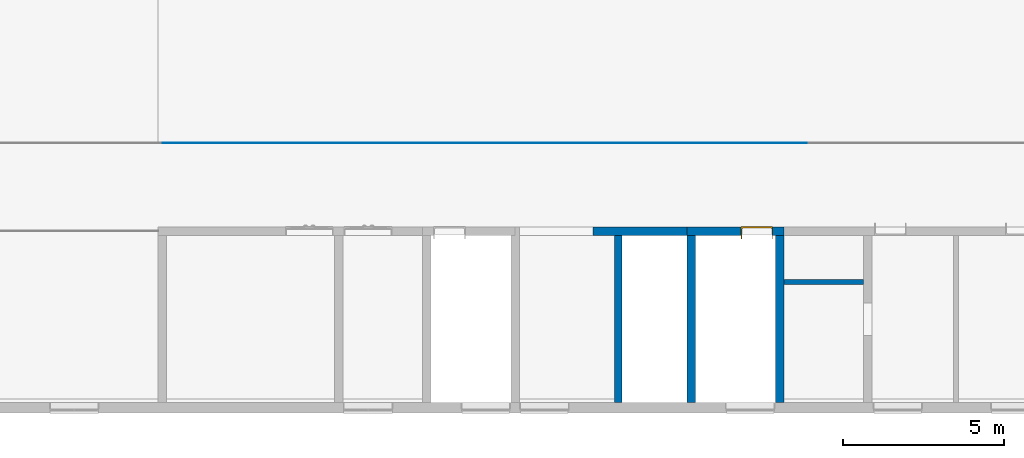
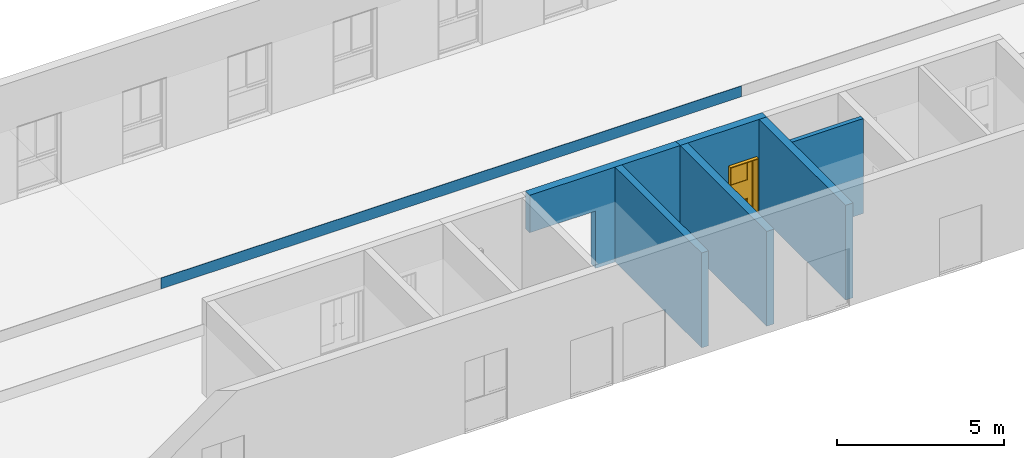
# One storey, part 6 of 11: 7 walls, 1 door, 2 openings.
"""IFC4X3 building model written with IfcOpenShell, lengths in millimetres."""

from ifc_helpers import new_model, entity, si_unit, converted_unit, derived_unit, direction, frame, frame_2d, origin, place, context, subcontext, project, spatial, rectangle, extrude, faceted_brep, source, transform, mapped, material, layer, layer_set, constituent, constituent_set, type_object, type_shapes, element, fill, save


model = new_model("IFC4X3")

# Units and contexts
model_context = context("Model", 3, precision=0.01, world=origin(), true_north=direction((6.12303176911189e-17, 1.0)))
body_context = subcontext(model_context, "Body", "Model", "MODEL_VIEW")
ifc_project = project(units=[si_unit("LENGTHUNIT", "METRE", prefix="MILLI"), si_unit("AREAUNIT", "SQUARE_METRE"), si_unit("VOLUMEUNIT", "CUBIC_METRE"), converted_unit("PLANEANGLEUNIT", "DEGREE", entity("IfcPlaneAngleMeasure", 0.0174532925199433), si_unit("PLANEANGLEUNIT", "RADIAN"), dimensions=[0, 0, 0, 0, 0, 0, 0]), si_unit("MASSUNIT", "GRAM", prefix="KILO"), derived_unit("MASSDENSITYUNIT", [(si_unit("MASSUNIT", "GRAM", prefix="KILO"), 1), (si_unit("LENGTHUNIT", "METRE"), -3)]), derived_unit("IONCONCENTRATIONUNIT", [(si_unit("MASSUNIT", "GRAM", prefix="KILO"), 1), (si_unit("LENGTHUNIT", "METRE"), -3)]), derived_unit("MOMENTOFINERTIAUNIT", [(si_unit("LENGTHUNIT", "METRE"), 4)]), si_unit("TIMEUNIT", "SECOND"), si_unit("FREQUENCYUNIT", "HERTZ"), si_unit("THERMODYNAMICTEMPERATUREUNIT", "DEGREE_CELSIUS"), derived_unit("THERMALTRANSMITTANCEUNIT", [(si_unit("MASSUNIT", "GRAM", prefix="KILO"), 1), (si_unit("THERMODYNAMICTEMPERATUREUNIT", "KELVIN"), -1), (si_unit("TIMEUNIT", "SECOND"), -3)]), derived_unit("THERMALCONDUCTANCEUNIT", [(si_unit("MASSUNIT", "GRAM", prefix="KILO"), 1), (si_unit("THERMODYNAMICTEMPERATUREUNIT", "KELVIN"), -1), (si_unit("TIMEUNIT", "SECOND"), -3), (si_unit("LENGTHUNIT", "METRE"), 1)]), derived_unit("VOLUMETRICFLOWRATEUNIT", [(si_unit("LENGTHUNIT", "METRE", prefix="DECI"), 3), (si_unit("TIMEUNIT", "SECOND"), -1)]), derived_unit("MASSFLOWRATEUNIT", [(si_unit("MASSUNIT", "GRAM", prefix="KILO"), 1), (si_unit("TIMEUNIT", "SECOND"), -1)]), derived_unit("ROTATIONALFREQUENCYUNIT", [(si_unit("TIMEUNIT", "SECOND"), -1)]), si_unit("ELECTRICCURRENTUNIT", "AMPERE"), si_unit("ELECTRICVOLTAGEUNIT", "VOLT"), si_unit("POWERUNIT", "WATT"), si_unit("FORCEUNIT", "NEWTON", prefix="KILO"), si_unit("ILLUMINANCEUNIT", "LUX"), si_unit("LUMINOUSFLUXUNIT", "LUMEN"), si_unit("LUMINOUSINTENSITYUNIT", "CANDELA"), si_unit("ENERGYUNIT", "JOULE"), derived_unit("USERDEFINED", [(si_unit("MASSUNIT", "GRAM", prefix="KILO"), -1), (si_unit("LENGTHUNIT", "METRE"), -2), (si_unit("TIMEUNIT", "SECOND"), 3), (si_unit("LUMINOUSFLUXUNIT", "LUMEN"), 1)]), derived_unit("USERDEFINED", [(si_unit("MASSUNIT", "GRAM", prefix="KILO"), 1), (si_unit("TIMEUNIT", "SECOND"), -3), (si_unit("LENGTHUNIT", "METRE"), 3), (si_unit("ELECTRICCURRENTUNIT", "AMPERE"), -2)]), derived_unit("SOUNDPOWERUNIT", [(si_unit("MASSUNIT", "GRAM", prefix="KILO"), 1), (si_unit("TIMEUNIT", "SECOND"), -3), (si_unit("LENGTHUNIT", "METRE"), 2)]), derived_unit("SOUNDPRESSUREUNIT", [(si_unit("MASSUNIT", "GRAM", prefix="KILO"), 1), (si_unit("LENGTHUNIT", "METRE"), -1), (si_unit("TIMEUNIT", "SECOND"), -2)]), derived_unit("LINEARVELOCITYUNIT", [(si_unit("LENGTHUNIT", "METRE"), 1), (si_unit("TIMEUNIT", "SECOND"), -1)]), si_unit("PRESSUREUNIT", "PASCAL"), derived_unit("USERDEFINED", [(si_unit("MASSUNIT", "GRAM", prefix="KILO"), 1), (si_unit("LENGTHUNIT", "METRE"), -2), (si_unit("TIMEUNIT", "SECOND"), -2)]), derived_unit("LINEARFORCEUNIT", [(si_unit("MASSUNIT", "GRAM", prefix="KILO"), 1), (si_unit("TIMEUNIT", "SECOND"), -2)]), derived_unit("PLANARFORCEUNIT", [(si_unit("MASSUNIT", "GRAM", prefix="KILO"), 1), (si_unit("LENGTHUNIT", "METRE"), -1), (si_unit("TIMEUNIT", "SECOND"), -2)]), derived_unit("SPECIFICHEATCAPACITYUNIT", [(si_unit("THERMODYNAMICTEMPERATUREUNIT", "KELVIN"), -1), (si_unit("LENGTHUNIT", "METRE"), 2), (si_unit("TIMEUNIT", "SECOND"), -2)]), derived_unit("HEATFLUXDENSITYUNIT", [(si_unit("MASSUNIT", "GRAM", prefix="KILO"), 1), (si_unit("TIMEUNIT", "SECOND"), -3)]), derived_unit("HEATINGVALUEUNIT", [(si_unit("LENGTHUNIT", "METRE"), 2), (si_unit("TIMEUNIT", "SECOND"), -2)]), derived_unit("VAPORPERMEABILITYUNIT", [(si_unit("LENGTHUNIT", "METRE"), -1), (si_unit("TIMEUNIT", "SECOND"), 1)]), derived_unit("DYNAMICVISCOSITYUNIT", [(si_unit("MASSUNIT", "GRAM", prefix="KILO"), 1), (si_unit("TIMEUNIT", "SECOND"), -1), (si_unit("LENGTHUNIT", "METRE"), -1)]), derived_unit("THERMALEXPANSIONCOEFFICIENTUNIT", [(si_unit("THERMODYNAMICTEMPERATUREUNIT", "KELVIN"), -1)]), derived_unit("MODULUSOFELASTICITYUNIT", [(si_unit("MASSUNIT", "GRAM", prefix="KILO"), 1), (si_unit("LENGTHUNIT", "METRE"), -1), (si_unit("TIMEUNIT", "SECOND"), -2)]), derived_unit("ISOTHERMALMOISTURECAPACITYUNIT", [(si_unit("MASSUNIT", "GRAM", prefix="KILO"), -1), (si_unit("LENGTHUNIT", "METRE"), 3)]), derived_unit("MOISTUREDIFFUSIVITYUNIT", [(si_unit("TIMEUNIT", "SECOND"), -1), (si_unit("LENGTHUNIT", "METRE"), 2)]), derived_unit("AREADENSITYUNIT", [(si_unit("MASSUNIT", "GRAM", prefix="KILO"), 1), (si_unit("LENGTHUNIT", "METRE"), 2)]), derived_unit("MASSPERLENGTHUNIT", [(si_unit("MASSUNIT", "GRAM", prefix="KILO"), 1), (si_unit("LENGTHUNIT", "METRE"), -1)]), derived_unit("THERMALRESISTANCEUNIT", [(si_unit("MASSUNIT", "GRAM", prefix="KILO"), -1), (si_unit("TIMEUNIT", "SECOND"), 3), (si_unit("THERMODYNAMICTEMPERATUREUNIT", "KELVIN"), 1)]), derived_unit("ACCELERATIONUNIT", [(si_unit("LENGTHUNIT", "METRE"), 1), (si_unit("TIMEUNIT", "SECOND"), -2)]), derived_unit("ANGULARVELOCITYUNIT", [(si_unit("TIMEUNIT", "SECOND"), -1), (si_unit("PLANEANGLEUNIT", "RADIAN"), 1)]), derived_unit("LINEARSTIFFNESSUNIT", [(si_unit("MASSUNIT", "GRAM", prefix="KILO"), 1), (si_unit("TIMEUNIT", "SECOND"), -2)]), derived_unit("WARPINGCONSTANTUNIT", [(si_unit("LENGTHUNIT", "METRE"), 6)]), derived_unit("LINEARMOMENTUNIT", [(si_unit("MASSUNIT", "GRAM", prefix="KILO"), 1), (si_unit("LENGTHUNIT", "METRE"), 1), (si_unit("TIMEUNIT", "SECOND"), -2)]), derived_unit("TORQUEUNIT", [(si_unit("MASSUNIT", "GRAM", prefix="KILO"), 1), (si_unit("LENGTHUNIT", "METRE"), 2), (si_unit("TIMEUNIT", "SECOND"), -2)])], contexts=[model_context])

# Site, building, storey
site_placement = place(None, origin())
site = spatial("IfcSite", under=ifc_project, at=site_placement, Name="Default", CompositionType="ELEMENT")
building_placement = place(site_placement, origin())
building = spatial("IfcBuilding", under=site, at=building_placement, Name="事務所ビル", CompositionType="ELEMENT")
storey_placement = place(building_placement, frame((0.0, 0.0, 8000.0)))
storey = spatial("IfcBuildingStorey", under=building, at=storey_placement, Name="3FL", CompositionType="ELEMENT", Elevation=8000.0)

# Walls
ifc_material_1 = material(Name="せっこうボード", Category="一般")
ifc_layer_1 = layer(ifc_material_1, 15.0, Name="せっこうボード", Category="一般")
ifc_material_2 = material(Name="合板", Category="一般")
ifc_layer_2 = layer(ifc_material_2, 12.0, Name="合板", Category="一般")
ifc_material_3 = material(Name="天然木材", Category="一般")
ifc_layer_3 = layer(ifc_material_3, 210.0, Name="天然木材", Category="一般")
ifc_layer_4 = layer(ifc_material_2, 12.0, Name="合板", Category="一般")
ifc_layer_5 = layer(ifc_material_1, 15.0, Name="せっこうボード", Category="一般")
ifc_layer_set_1 = layer_set([ifc_layer_1, ifc_layer_2, ifc_layer_3, ifc_layer_4, ifc_layer_5], Name="標準壁:GB-R15_構造用合板12_木210_構造用合板12_GB-R15")
wall_type_1 = type_object("IfcWallType", Name="標準壁:GB-R15_構造用合板12_木210_構造用合板12_GB-R15", PredefinedType="STANDARD", material=ifc_layer_set_1)
wall_1_placement = place(storey_placement, frame((27300.0, 147.0, 0.0), z_axis=(0.0, 0.0, 1.0), x_axis=(0.0, 1.0, 0.0)))
element("IfcWall", 1, at=wall_1_placement, inside=storey, type_object=wall_type_1, material=ifc_layer_set_1, Name="標準壁:GB-R15_構造用合板12_木210_構造用合板12_GB-R15", ObjectType="標準壁:GB-R15_構造用合板12_木210_構造用合板12_GB-R15", PredefinedType="NOTDEFINED", context=body_context, shape_type="SweptSolid", body=[
    extrude(rectangle(XDim=5181.00000000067, YDim=264.000000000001, at=frame_2d((2590.50000000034, -2.27373675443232e-13), x_axis=(-1.0, 0.0))), origin(), (0.0, 0.0, 1.0), 3470.0),
])
wall_2_placement = place(storey_placement, frame((30030.0, 147.0, 0.0), z_axis=(0.0, 0.0, 1.0), x_axis=(0.0, 1.0, 0.0)))
element("IfcWall", 2, at=wall_2_placement, inside=storey, type_object=wall_type_1, material=ifc_layer_set_1, Name="標準壁:GB-R15_構造用合板12_木210_構造用合板12_GB-R15", ObjectType="標準壁:GB-R15_構造用合板12_木210_構造用合板12_GB-R15", PredefinedType="NOTDEFINED", context=body_context, shape_type="SweptSolid", body=[
    extrude(rectangle(XDim=5181.00000000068, YDim=264.000000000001, at=frame_2d((2590.50000000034, -2.27373675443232e-13), x_axis=(-1.0, 0.0))), origin(), (0.0, 0.0, 1.0), 3470.0),
])

# Wall, opening
wall_3_placement = place(storey_placement, frame((21972.0, 5460.0, 0.0)))
wall_3 = element("IfcWall", 3, at=wall_3_placement, inside=storey, type_object=wall_type_1, material=ifc_layer_set_1, Name="標準壁:GB-R15_構造用合板12_木210_構造用合板12_GB-R15", ObjectType="標準壁:GB-R15_構造用合板12_木210_構造用合板12_GB-R15", PredefinedType="NOTDEFINED", context=body_context, shape_type="SweptSolid", body=[
    extrude(rectangle(XDim=5196.0, YDim=264.000000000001, at=frame_2d((2598.0, -2.1316282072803e-13), x_axis=(-1.0, 0.0))), origin(), (0.0, 0.0, 1.0), 3470.0),
])
opening_1_placement = place(wall_3_placement, frame((0.0, -132.0, 0.0)))
element("IfcOpeningElement", 4, at=opening_1_placement, cuts=wall_3, Name="ドア-開口部:2275 x 2100mm:1", PredefinedType="OPENING", context=body_context, shape_type="SweptSolid", body=[
    extrude(rectangle(XDim=2100.0, YDim=2275.0, at=frame_2d((1050.0, 1137.5), x_axis=(-1.0, 0.0))), frame((0.0, 0.0, 0.0), z_axis=(0.0, 1.0, 0.0), x_axis=(0.0, 0.0, 1.0)), (0.0, 0.0, 1.0), 264.0),
])

# Wall, opening, door
wall_4_placement = place(storey_placement, frame((27168.0, 5460.0, 0.0)))
wall_4 = element("IfcWall", 5, at=wall_4_placement, inside=storey, type_object=wall_type_1, material=ifc_layer_set_1, Name="標準壁:GB-R15_構造用合板12_木210_構造用合板12_GB-R15", ObjectType="標準壁:GB-R15_構造用合板12_木210_構造用合板12_GB-R15", PredefinedType="NOTDEFINED", context=body_context, shape_type="SweptSolid", body=[
    extrude(rectangle(XDim=2994.00000000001, YDim=264.000000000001, at=frame_2d((1497.0, -5.6843418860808e-14), x_axis=(-1.0, 0.0))), origin(), (0.0, 0.0, 1.0), 3470.0),
])
opening_2_placement = place(wall_4_placement, frame((1672.0, -132.0, 0.0)))
opening_2 = element("IfcOpeningElement", 6, at=opening_2_placement, cuts=wall_4, Name="鋼製_一般枠_片開き 1:鋼製_一般枠_片開き 1:1", PredefinedType="OPENING", context=body_context, shape_type="SweptSolid", body=[
    extrude(rectangle(XDim=2140.0, YDim=979.999999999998, at=frame_2d((1070.0, 489.999999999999), x_axis=(-1.0, 0.0))), frame((0.0, 0.0, 0.0), z_axis=(0.0, 1.0, 0.0), x_axis=(0.0, 0.0, 1.0)), (0.0, 0.0, 1.0), 264.0),
])
ifc_material_4 = material(Name="金属 - アルミニウム", Category="未設定")
ifc_constituent_1 = constituent(ifc_material_4, Name="金属 - アルミニウム", Category="未設定")
ifc_material_5 = material(Name="塗装 - 白", Category="未設定")
ifc_constituent_2 = constituent(ifc_material_5, Name="塗装 - 白", Category="未設定")
ifc_material_6 = material(Name="ガラス", Category="ガラス")
ifc_constituent_3 = constituent(ifc_material_6, Name="ガラス", Category="ガラス")
ifc_constituent_set_1 = constituent_set(constituents=[ifc_constituent_1, ifc_constituent_2, ifc_constituent_3])
ifc_constituent_4 = constituent(ifc_material_4, Name="金属 - アルミニウム", Category="未設定")
ifc_constituent_5 = constituent(ifc_material_5, Name="パネル", Category="未設定")
ifc_constituent_6 = constituent(ifc_material_6, Name="ガラス", Category="ガラス")
ifc_constituent_7 = constituent(ifc_material_4, Name="フレーム/マリオン", Category="未設定")
ifc_constituent_set_2 = constituent_set(constituents=[ifc_constituent_4, ifc_constituent_5, ifc_constituent_6, ifc_constituent_7])
door_type = type_object("IfcDoorType", Name="鋼製_一般枠_片開き 1:鋼製_一般枠_片開き 1", OperationType="SINGLE_SWING_RIGHT", ParameterTakesPrecedence=False, PredefinedType="DOOR", material=ifc_constituent_set_2)
shared_shape = source(origin(), body_context, "Body", "Brep", [
    faceted_brep([(190.0, 269.0, 493.333333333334), (190.0, 239.0, 508.333333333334), (190.0, 229.0, 503.333333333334), (190.0, 229.0, 508.333333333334), (190.0, 239.0, 513.333333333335), (190.0, 269.0, 498.333333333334), (790.0, 269.0, 493.333333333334), (790.0, 269.0, 498.333333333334), (790.0, 239.0, 513.333333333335), (790.0, 229.0, 508.333333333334), (790.0, 229.0, 503.333333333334), (790.0, 239.0, 508.333333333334)], [[[0, 1, 2, 3, 4, 5]], [[6, 7, 8, 9, 10, 11]], [[1, 0, 6, 11]], [[2, 1, 11, 10]], [[3, 2, 10, 9]], [[4, 3, 9, 8]], [[5, 4, 8, 7]], [[0, 5, 7, 6]]]),
    faceted_brep([(190.0, 269.0, 466.666666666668), (190.0, 239.0, 481.666666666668), (190.0, 229.0, 476.666666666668), (190.0, 229.0, 481.666666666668), (190.0, 239.0, 486.666666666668), (190.0, 269.0, 471.666666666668), (790.0, 269.0, 466.666666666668), (790.0, 269.0, 471.666666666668), (790.0, 239.0, 486.666666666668), (790.0, 229.0, 481.666666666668), (790.0, 229.0, 476.666666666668), (790.0, 239.0, 481.666666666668)], [[[0, 1, 2, 3, 4, 5]], [[6, 7, 8, 9, 10, 11]], [[1, 0, 6, 11]], [[2, 1, 11, 10]], [[3, 2, 10, 9]], [[4, 3, 9, 8]], [[5, 4, 8, 7]], [[0, 5, 7, 6]]]),
    faceted_brep([(190.0, 269.0, 440.0), (190.0, 239.0, 455.0), (190.0, 229.0, 450.0), (190.0, 229.0, 455.0), (190.0, 239.0, 460.0), (190.0, 269.0, 445.0), (790.0, 269.0, 440.0), (790.0, 269.0, 445.0), (790.0, 239.0, 460.0), (790.0, 229.0, 455.0), (790.0, 229.0, 450.0), (790.0, 239.0, 455.0)], [[[0, 1, 2, 3, 4, 5]], [[6, 7, 8, 9, 10, 11]], [[1, 0, 6, 11]], [[2, 1, 11, 10]], [[3, 2, 10, 9]], [[4, 3, 9, 8]], [[5, 4, 8, 7]], [[0, 5, 7, 6]]]),
    faceted_brep([(190.0, 269.0, 413.333333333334), (190.0, 239.0, 428.333333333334), (190.0, 229.0, 423.333333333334), (190.0, 229.0, 428.333333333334), (190.0, 239.0, 433.333333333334), (190.0, 269.0, 418.333333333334), (790.0, 269.0, 413.333333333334), (790.0, 269.0, 418.333333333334), (790.0, 239.0, 433.333333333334), (790.0, 229.0, 428.333333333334), (790.0, 229.0, 423.333333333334), (790.0, 239.0, 428.333333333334)], [[[0, 1, 2, 3, 4, 5]], [[6, 7, 8, 9, 10, 11]], [[1, 0, 6, 11]], [[2, 1, 11, 10]], [[3, 2, 10, 9]], [[4, 3, 9, 8]], [[5, 4, 8, 7]], [[0, 5, 7, 6]]]),
    faceted_brep([(190.0, 269.0, 386.666666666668), (190.0, 239.0, 401.666666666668), (190.0, 229.0, 396.666666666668), (190.0, 229.0, 401.666666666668), (190.0, 239.0, 406.666666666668), (190.0, 269.0, 391.666666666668), (790.0, 269.0, 386.666666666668), (790.0, 269.0, 391.666666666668), (790.0, 239.0, 406.666666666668), (790.0, 229.0, 401.666666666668), (790.0, 229.0, 396.666666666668), (790.0, 239.0, 401.666666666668)], [[[0, 1, 2, 3, 4, 5]], [[6, 7, 8, 9, 10, 11]], [[1, 0, 6, 11]], [[2, 1, 11, 10]], [[3, 2, 10, 9]], [[4, 3, 9, 8]], [[5, 4, 8, 7]], [[0, 5, 7, 6]]]),
    faceted_brep([(190.0, 269.0, 360.0), (190.0, 239.0, 375.0), (190.0, 229.0, 370.0), (190.0, 229.0, 375.0), (190.0, 239.0, 380.0), (190.0, 269.0, 365.0), (790.0, 269.0, 360.0), (790.0, 269.0, 365.0), (790.0, 239.0, 380.0), (790.0, 229.0, 375.0), (790.0, 229.0, 370.0), (790.0, 239.0, 375.0)], [[[0, 1, 2, 3, 4, 5]], [[6, 7, 8, 9, 10, 11]], [[1, 0, 6, 11]], [[2, 1, 11, 10]], [[3, 2, 10, 9]], [[4, 3, 9, 8]], [[5, 4, 8, 7]], [[0, 5, 7, 6]]]),
    faceted_brep([(190.0, 269.0, 333.333333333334), (190.0, 239.0, 348.333333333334), (190.0, 229.0, 343.333333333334), (190.0, 229.0, 348.333333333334), (190.0, 239.0, 353.333333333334), (190.0, 269.0, 338.333333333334), (790.0, 269.0, 333.333333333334), (790.0, 269.0, 338.333333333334), (790.0, 239.0, 353.333333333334), (790.0, 229.0, 348.333333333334), (790.0, 229.0, 343.333333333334), (790.0, 239.0, 348.333333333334)], [[[0, 1, 2, 3, 4, 5]], [[6, 7, 8, 9, 10, 11]], [[1, 0, 6, 11]], [[2, 1, 11, 10]], [[3, 2, 10, 9]], [[4, 3, 9, 8]], [[5, 4, 8, 7]], [[0, 5, 7, 6]]]),
    faceted_brep([(190.0, 269.0, 306.666666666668), (190.0, 239.0, 321.666666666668), (190.0, 229.0, 316.666666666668), (190.0, 229.0, 321.666666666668), (190.0, 239.0, 326.666666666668), (190.0, 269.0, 311.666666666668), (790.0, 269.0, 306.666666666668), (790.0, 269.0, 311.666666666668), (790.0, 239.0, 326.666666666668), (790.0, 229.0, 321.666666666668), (790.0, 229.0, 316.666666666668), (790.0, 239.0, 321.666666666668)], [[[0, 1, 2, 3, 4, 5]], [[6, 7, 8, 9, 10, 11]], [[1, 0, 6, 11]], [[2, 1, 11, 10]], [[3, 2, 10, 9]], [[4, 3, 9, 8]], [[5, 4, 8, 7]], [[0, 5, 7, 6]]]),
    faceted_brep([(190.0, 269.0, 520.0), (190.0, 239.0, 535.0), (190.0, 229.0, 530.0), (190.0, 229.0, 535.0), (190.0, 239.0, 540.0), (190.0, 269.0, 525.0), (790.0, 269.0, 520.0), (790.0, 269.0, 525.0), (790.0, 239.0, 540.0), (790.0, 229.0, 535.0), (790.0, 229.0, 530.0), (790.0, 239.0, 535.0)], [[[0, 1, 2, 3, 4, 5]], [[6, 7, 8, 9, 10, 11]], [[1, 0, 6, 11]], [[2, 1, 11, 10]], [[3, 2, 10, 9]], [[4, 3, 9, 8]], [[5, 4, 8, 7]], [[0, 5, 7, 6]]]),
    faceted_brep([(190.0, 269.0, 280.0), (190.0, 239.0, 295.0), (190.0, 229.0, 290.0), (190.0, 229.0, 295.0), (190.0, 239.0, 300.0), (190.0, 269.0, 285.0), (790.0, 269.0, 280.0), (790.0, 269.0, 285.0), (790.0, 239.0, 300.0), (790.0, 229.0, 295.0), (790.0, 229.0, 290.0), (790.0, 239.0, 295.0)], [[[0, 1, 2, 3, 4, 5]], [[6, 7, 8, 9, 10, 11]], [[1, 0, 6, 11]], [[2, 1, 11, 10]], [[3, 2, 10, 9]], [[4, 3, 9, 8]], [[5, 4, 8, 7]], [[0, 5, 7, 6]]]),
    faceted_brep([(180.0, 269.0, 260.0), (180.0, 269.0, 560.0), (800.0, 269.0, 560.0), (800.0, 269.0, 260.0), (190.0, 269.0, 270.0), (790.0, 269.0, 270.0), (790.0, 269.0, 550.0), (190.0, 269.0, 550.0), (180.0, 229.0, 260.0), (800.0, 229.0, 260.0), (800.0, 229.0, 560.0), (180.0, 229.0, 560.0), (190.0, 229.0, 270.0), (190.0, 229.0, 550.0), (790.0, 229.0, 550.0), (790.0, 229.0, 270.0)], [[[0, 1, 2, 3], [4, 5, 6, 7]], [[8, 9, 10, 11], [12, 13, 14, 15]], [[1, 0, 8, 11]], [[2, 1, 11, 10]], [[3, 2, 10, 9]], [[0, 3, 9, 8]], [[5, 4, 12, 15]], [[6, 5, 15, 14]], [[7, 6, 14, 13]], [[4, 7, 13, 12]]]),
    faceted_brep([(180.0, 229.0, 1210.0), (800.0, 229.0, 1210.0), (800.0, 229.0, 1960.0), (180.0, 229.0, 1960.0), (190.0, 229.0, 1220.0), (190.0, 229.0, 1950.0), (790.0, 229.0, 1950.0), (790.0, 229.0, 1220.0), (180.0, 269.0, 1210.0), (180.0, 269.0, 1960.0), (800.0, 269.0, 1960.0), (800.0, 269.0, 1210.0), (190.0, 269.0, 1220.0), (790.0, 269.0, 1220.0), (790.0, 269.0, 1950.0), (190.0, 269.0, 1950.0)], [[[0, 1, 2, 3], [4, 5, 6, 7]], [[8, 9, 10, 11], [12, 13, 14, 15]], [[3, 9, 8, 0]], [[2, 10, 9, 3]], [[1, 11, 10, 2]], [[0, 8, 11, 1]], [[7, 13, 12, 4]], [[6, 14, 13, 7]], [[5, 15, 14, 6]], [[4, 12, 15, 5]]]),
    faceted_brep([(180.0, 244.0, 1210.0), (800.0, 244.0, 1210.0), (800.0, 244.0, 1960.0), (180.0, 244.0, 1960.0), (180.0, 249.0, 1210.0), (180.0, 249.0, 1960.0), (800.0, 249.0, 1960.0), (800.0, 249.0, 1210.0)], [[[0, 1, 2, 3]], [[4, 5, 6, 7]], [[3, 5, 4, 0]], [[2, 6, 5, 3]], [[1, 7, 6, 2]], [[0, 4, 7, 1]]]),
    faceted_brep([(30.0, 229.0, 10.0), (950.0, 229.0, 10.0), (950.0, 229.0, 2110.0), (30.0, 229.0, 2110.0), (180.0, 229.0, 260.0), (180.0, 229.0, 560.0), (800.0, 229.0, 560.0), (800.0, 229.0, 260.0), (180.0, 229.0, 1210.0), (180.0, 229.0, 1960.0), (800.0, 229.0, 1960.0), (800.0, 229.0, 1210.0), (30.0, 269.0, 10.0), (30.0, 269.0, 2110.0), (950.0, 269.0, 2110.0), (950.0, 269.0, 10.0), (180.0, 269.0, 260.0), (800.0, 269.0, 260.0), (800.0, 269.0, 560.0), (180.0, 269.0, 560.0), (180.0, 269.0, 1210.0), (800.0, 269.0, 1210.0), (800.0, 269.0, 1960.0), (180.0, 269.0, 1960.0)], [[[0, 1, 2, 3], [4, 5, 6, 7], [8, 9, 10, 11]], [[12, 13, 14, 15], [16, 17, 18, 19], [20, 21, 22, 23]], [[3, 13, 12, 0]], [[2, 14, 13, 3]], [[1, 15, 14, 2]], [[0, 12, 15, 1]], [[7, 17, 16, 4]], [[6, 18, 17, 7]], [[5, 19, 18, 6]], [[4, 16, 19, 5]], [[11, 21, 20, 8]], [[10, 22, 21, 11]], [[9, 23, 22, 10]], [[8, 20, 23, 9]]]),
    faceted_brep([(25.0, 274.0, 0.0), (25.0, 224.0, 0.0), (40.0, 224.0, 0.0), (40.0, 194.0, 0.0), (25.0, 194.0, 0.0), (25.0, -110.0, 0.0), (0.0, -110.0, 0.0), (0.0, 274.0, 0.0), (0.0, 274.0, 2140.0), (980.0, 274.0, 2140.0), (980.0, 274.0, 0.0), (955.0, 274.0, 0.0), (955.0, 274.0, 2115.0), (25.0, 274.0, 2115.0), (0.0, -110.0, 2140.0), (25.0, -110.0, 2115.0), (955.0, -110.0, 2115.0), (955.0, -110.0, 0.0), (980.0, -110.0, 0.0), (980.0, -110.0, 2140.0), (25.0, 194.0, 2115.0), (40.0, 194.0, 2100.0), (940.0, 194.0, 2100.0), (940.0, 194.0, 0.0), (955.0, 194.0, 0.0), (955.0, 194.0, 2115.0), (40.0, 224.0, 2100.0), (25.0, 224.0, 2115.0), (955.0, 224.0, 2115.0), (955.0, 224.0, 0.0), (940.0, 224.0, 0.0), (940.0, 224.0, 2100.0)], [[[0, 1, 2, 3, 4, 5, 6, 7]], [[7, 8, 9, 10, 11, 12, 13, 0]], [[6, 14, 8, 7]], [[5, 15, 16, 17, 18, 19, 14, 6]], [[4, 20, 15, 5]], [[3, 21, 22, 23, 24, 25, 20, 4]], [[2, 26, 21, 3]], [[1, 27, 28, 29, 30, 31, 26, 2]], [[0, 13, 27, 1]], [[14, 19, 9, 8]], [[20, 25, 16, 15]], [[26, 31, 22, 21]], [[13, 12, 28, 27]], [[11, 10, 18, 17, 24, 23, 30, 29]], [[19, 18, 10, 9]], [[25, 24, 17, 16]], [[31, 30, 23, 22]], [[12, 11, 29, 28]]]),
])
type_shapes(door_type, [shared_shape])
door_placement = place(opening_2_placement, origin())
door = element("IfcDoor", 7, at=door_placement, inside=storey, type_object=door_type, material=ifc_constituent_set_1, Name="鋼製_一般枠_片開き 1:鋼製_一般枠_片開き 1", ObjectType="鋼製_一般枠_片開き 1:鋼製_一般枠_片開き 1", OperationType="SINGLE_SWING_RIGHT", OverallHeight=2140.0, OverallWidth=979.999999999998, PredefinedType="DOOR", context=body_context, shape_type="MappedRepresentation", body=[
    mapped(shared_shape, transform((0.0, 0.0, 0.0), scale=1.0)),
])
fill(opening_2, door)

# Walls
ifc_material_7 = material(Name="<Unnamed>")
ifc_layer_6 = layer(ifc_material_7, 15.0, Name="Layer")
ifc_layer_7 = layer(ifc_material_3, 120.0, Name="天然木材", Category="一般")
ifc_layer_8 = layer(ifc_material_7, 15.0, Name="Layer")
ifc_layer_set_2 = layer_set([ifc_layer_6, ifc_layer_7, ifc_layer_8], Name="標準壁:GB-R15_木120_GB-R15")
wall_type_2 = type_object("IfcWallType", Name="標準壁:GB-R15_木120_GB-R15", PredefinedType="STANDARD", material=ifc_layer_set_2)
wall_5_placement = place(storey_placement, frame((32628.0, 3880.0, 0.0), z_axis=(0.0, 0.0, 1.0), x_axis=(-1.0, 0.0, 0.0)))
element("IfcWall", 8, at=wall_5_placement, inside=storey, type_object=wall_type_2, material=ifc_layer_set_2, Name="標準壁:GB-R15_木120_GB-R15", ObjectType="標準壁:GB-R15_木120_GB-R15", PredefinedType="NOTDEFINED", context=body_context, shape_type="SweptSolid", body=[
    extrude(rectangle(XDim=2465.99999999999, YDim=149.999999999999, at=frame_2d((1232.99999999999, 4.9737991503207e-14), x_axis=(-1.0, 0.0))), origin(), (0.0, 0.0, 1.0), 3470.0),
])
ifc_layer_9 = layer(ifc_material_3, 210.0, Name="天然木材", Category="一般")
ifc_layer_10 = layer(ifc_material_7, 12.0, Name="Layer")
ifc_layer_11 = layer(ifc_material_7, 15.0, Name="Layer")
ifc_layer_set_3 = layer_set([ifc_layer_9, ifc_layer_10, ifc_layer_11], Name="標準壁:(内壁)木210/構造用合板12/GB-R15)/*")
wall_type_3 = type_object("IfcWallType", Name="標準壁:(内壁)木210/構造用合板12/GB-R15)/*", PredefinedType="STANDARD", material=ifc_layer_set_3)
wall_6_placement = place(storey_placement, frame((25038.5, 147.0, 0.0), z_axis=(0.0, 0.0, 1.0), x_axis=(0.0, 1.0, 0.0)))
element("IfcWall", 9, at=wall_6_placement, inside=storey, type_object=wall_type_3, material=ifc_layer_set_3, Name="標準壁:(内壁)木210/構造用合板12/GB-R15)/*", ObjectType="標準壁:(内壁)木210/構造用合板12/GB-R15)/*", PredefinedType="NOTDEFINED", context=body_context, shape_type="SweptSolid", body=[
    extrude(rectangle(XDim=5181.00000000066, YDim=236.999999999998, at=frame_2d((2590.50000000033, -2.20268248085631e-13), x_axis=(-1.0, 0.0))), origin(), (0.0, 0.0, 1.0), 3470.0),
])
ifc_layer_12 = layer(ifc_material_7, 15.0, Name="Layer")
ifc_layer_set_4 = layer_set([ifc_layer_12], Name="標準壁:GB-R15")
wall_type_4 = type_object("IfcWallType", Name="標準壁:GB-R15", PredefinedType="STANDARD", material=ifc_layer_set_4)
wall_7_placement = place(storey_placement, frame((10863.0, 8190.0, 2200.0)))
element("IfcWall", 10, at=wall_7_placement, inside=storey, type_object=wall_type_4, material=ifc_layer_set_4, Name="標準壁:GB-R15", ObjectType="標準壁:GB-R15", PredefinedType="NOTDEFINED", context=body_context, shape_type="SweptSolid", body=[
    extrude(rectangle(XDim=20077.0, YDim=15.0000000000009, at=frame_2d((10038.5, 2.40252262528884e-13), x_axis=(-1.0, 0.0))), origin(), (0.0, 0.0, 1.0), 399.999999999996),
])

save(model, "model.ifc")
